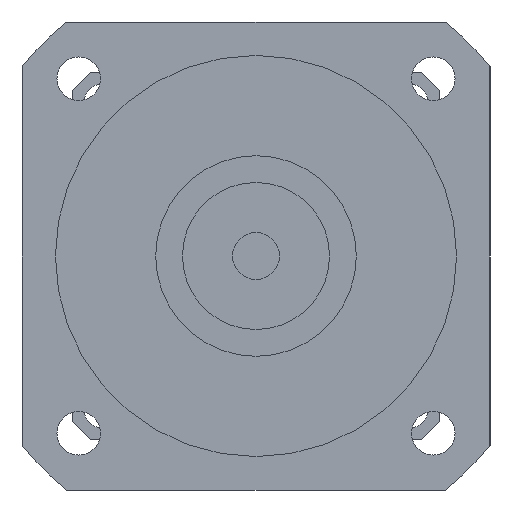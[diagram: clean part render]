
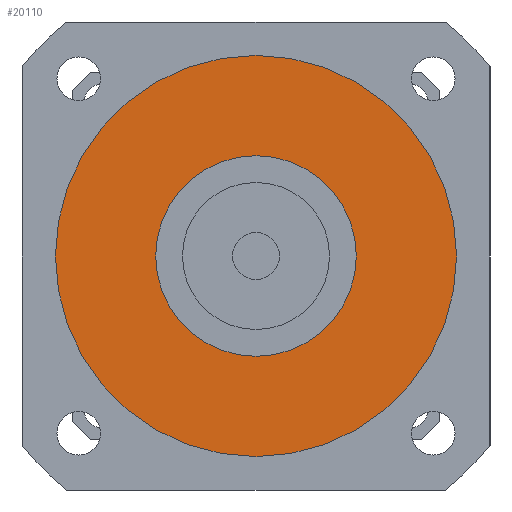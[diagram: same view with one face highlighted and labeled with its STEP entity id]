
A CAD part, left-side view. The second image highlights one B-rep face of the part: STEP entity #20110.
In plain terms, the highlighted planar face has unit normal (-1, 0, 0) as drawn and (0, 0, -1) by its records, which use the part's own axes.
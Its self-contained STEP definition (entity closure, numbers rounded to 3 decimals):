
#19630=CARTESIAN_POINT('',(0.,30.,-55.));
#19640=VERTEX_POINT('',#19630);
#19670=CARTESIAN_POINT('',(0.,0.,-55.));
#19680=DIRECTION('',(0.,0.,-1.));
#19690=DIRECTION('',(0.,-1.,0.));
#19700=AXIS2_PLACEMENT_3D('',#19670,#19680,#19690);
#19710=CIRCLE('',#19700,30.);
#19720=CARTESIAN_POINT('',(0.,-30.,-55.));
#19730=VERTEX_POINT('',#19720);
#19740=EDGE_CURVE('',#19640,#19730,#19710,.T.);
#19860=CARTESIAN_POINT('',(18.513,-16.263,-55.));
#19870=DIRECTION('',(0.,0.,-1.));
#19880=DIRECTION('',(0.,-1.,0.));
#19890=AXIS2_PLACEMENT_3D('',#19860,#19870,#19880);
#19900=PLANE('',#19890);
#19910=CARTESIAN_POINT('',(0.,0.,
-55.));
#19920=DIRECTION('',(0.,0.,1.));
#19930=DIRECTION('',(1.,0.,0.));
#19940=AXIS2_PLACEMENT_3D('',#19910,#19920,#19930);
#19950=CIRCLE('',#19940,15.);
#19960=CARTESIAN_POINT('',(15.,0.,-55.));
#19970=VERTEX_POINT('',#19960);
#19980=CARTESIAN_POINT('',(-15.,0.,-55.));
#19990=VERTEX_POINT('',#19980);
#20000=EDGE_CURVE('',#19970,#19990,#19950,.T.);
#20010=ORIENTED_EDGE('',*,*,#20000,.T.);
#20020=EDGE_CURVE('',#19990,#19970,#19950,.T.);
#20030=ORIENTED_EDGE('',*,*,#20020,.T.);
#20040=EDGE_LOOP('',(#20030,#20010));
#20050=FACE_BOUND('',#20040,.T.);
#20060=EDGE_CURVE('',#19730,#19640,#19710,.T.);
#20070=ORIENTED_EDGE('',*,*,#20060,.T.);
#20080=ORIENTED_EDGE('',*,*,#19740,.T.);
#20090=EDGE_LOOP('',(#20080,#20070));
#20100=FACE_OUTER_BOUND('',#20090,.T.);
#20110=ADVANCED_FACE('',(#20050,#20100),#19900,.T.);
